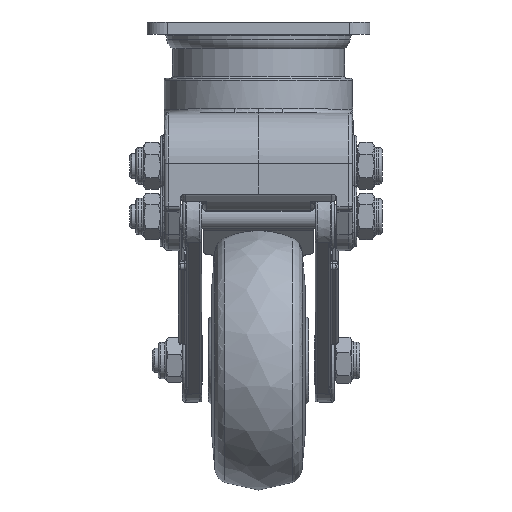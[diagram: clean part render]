
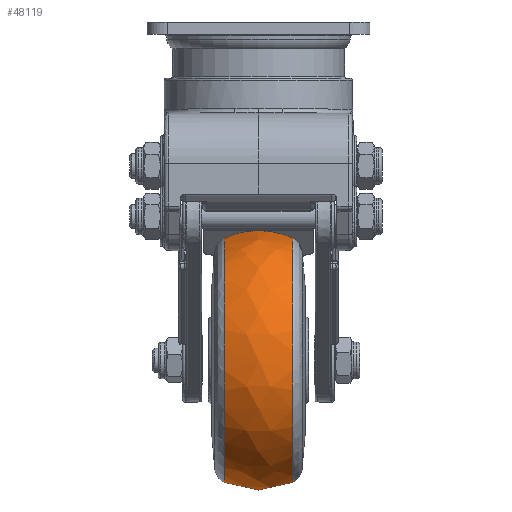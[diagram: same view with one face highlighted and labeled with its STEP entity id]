
A CAD part, left-side view. The second image highlights one B-rep face of the part: STEP entity #48119.
In plain terms, the highlighted free-form (B-spline) face has degree [2, 2] with [3, 9] control points.
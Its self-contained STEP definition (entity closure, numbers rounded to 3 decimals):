
#18=(
BOUNDED_SURFACE()
B_SPLINE_SURFACE(2,2,((#94049,#94050,#94051,#94052,#94053,#94054,#94055,
#94056,#94057),(#94058,#94059,#94060,#94061,#94062,#94063,#94064,#94065,
#94066),(#94067,#94068,#94069,#94070,#94071,#94072,#94073,#94074,#94075)),
 .UNSPECIFIED.,.F.,.T.,.F.)
B_SPLINE_SURFACE_WITH_KNOTS((3,3),(3,2,2,2,3),(-0.438,0.438),
(-3.142,-1.571,0.,1.571,3.142),
 .UNSPECIFIED.)
GEOMETRIC_REPRESENTATION_ITEM()
RATIONAL_B_SPLINE_SURFACE(((1.,0.707,1.,0.707,1.,
0.707,1.,0.707,1.),(0.906,0.64,
0.906,0.64,0.906,0.64,
0.906,0.64,0.906),(1.,0.707,
1.,0.707,1.,0.707,1.,0.707,1.)))
REPRESENTATION_ITEM('')
SURFACE()
);
#9468=FACE_OUTER_BOUND('',#12300,.T.);
#12300=EDGE_LOOP('',(#44853,#44854,#44855,#44856,#44857,#44858,#44859,#44860));
#20166=CIRCLE('',#51912,30.112);
#20167=CIRCLE('',#51913,30.112);
#20168=CIRCLE('',#51914,30.112);
#20179=CIRCLE('',#51931,30.112);
#20180=CIRCLE('',#51932,30.112);
#20181=CIRCLE('',#51933,30.112);
#20183=CIRCLE('',#51935,20.);
#24463=VERTEX_POINT('',#94006);
#24464=VERTEX_POINT('',#94008);
#24465=VERTEX_POINT('',#94010);
#24476=VERTEX_POINT('',#94042);
#24477=VERTEX_POINT('',#94043);
#24478=VERTEX_POINT('',#94045);
#31260=EDGE_CURVE('',#24463,#24464,#20166,.T.);
#31261=EDGE_CURVE('',#24464,#24465,#20167,.T.);
#31262=EDGE_CURVE('',#24465,#24463,#20168,.T.);
#31276=EDGE_CURVE('',#24476,#24477,#20179,.T.);
#31277=EDGE_CURVE('',#24478,#24476,#20180,.T.);
#31278=EDGE_CURVE('',#24477,#24478,#20181,.T.);
#31280=EDGE_CURVE('',#24478,#24464,#20183,.T.);
#44853=ORIENTED_EDGE('',*,*,#31276,.T.);
#44854=ORIENTED_EDGE('',*,*,#31278,.T.);
#44855=ORIENTED_EDGE('',*,*,#31280,.T.);
#44856=ORIENTED_EDGE('',*,*,#31260,.F.);
#44857=ORIENTED_EDGE('',*,*,#31262,.F.);
#44858=ORIENTED_EDGE('',*,*,#31261,.F.);
#44859=ORIENTED_EDGE('',*,*,#31280,.F.);
#44860=ORIENTED_EDGE('',*,*,#31277,.T.);
#48119=ADVANCED_FACE('',(#9468),#18,.F.);
#51912=AXIS2_PLACEMENT_3D('',#94009,#62673,#62674);
#51913=AXIS2_PLACEMENT_3D('',#94011,#62675,#62676);
#51914=AXIS2_PLACEMENT_3D('',#94012,#62677,#62678);
#51931=AXIS2_PLACEMENT_3D('',#94044,#62714,#62715);
#51932=AXIS2_PLACEMENT_3D('',#94046,#62716,#62717);
#51933=AXIS2_PLACEMENT_3D('',#94047,#62718,#62719);
#51935=AXIS2_PLACEMENT_3D('',#94076,#62722,#62723);
#62673=DIRECTION('center_axis',(0.,-1.,0.));
#62674=DIRECTION('ref_axis',(-0.325,0.,-0.946));
#62675=DIRECTION('center_axis',(0.,-1.,0.));
#62676=DIRECTION('ref_axis',(-0.325,0.,-0.946));
#62677=DIRECTION('center_axis',(0.,-1.,0.));
#62678=DIRECTION('ref_axis',(-0.325,0.,-0.946));
#62714=DIRECTION('center_axis',(0.,-1.,0.));
#62715=DIRECTION('ref_axis',(-0.325,0.,-0.946));
#62716=DIRECTION('center_axis',(0.,-1.,0.));
#62717=DIRECTION('ref_axis',(-0.325,0.,-0.946));
#62718=DIRECTION('center_axis',(0.,-1.,0.));
#62719=DIRECTION('ref_axis',(-0.325,0.,-0.946));
#62722=DIRECTION('center_axis',(1.,0.,0.));
#62723=DIRECTION('ref_axis',(0.,0.,
1.));
#94006=CARTESIAN_POINT('',(22.419,-11.304,-45.166));
#94008=CARTESIAN_POINT('',(12.637,-11.304,-43.533));
#94009=CARTESIAN_POINT('Origin',(12.637,-11.304,-73.645));
#94010=CARTESIAN_POINT('',(2.855,-11.304,-102.124));
#94011=CARTESIAN_POINT('Origin',(12.637,-11.304,-73.645));
#94012=CARTESIAN_POINT('Origin',(12.637,-11.304,-73.645));
#94042=CARTESIAN_POINT('',(2.855,5.66,-102.124));
#94043=CARTESIAN_POINT('',(22.419,5.66,-45.166));
#94044=CARTESIAN_POINT('Origin',(12.637,5.66,-73.645));
#94045=CARTESIAN_POINT('',(12.637,5.66,-43.533));
#94046=CARTESIAN_POINT('Origin',(12.637,5.66,-73.645));
#94047=CARTESIAN_POINT('Origin',(12.637,5.66,-73.645));
#94049=CARTESIAN_POINT('Ctrl Pts',(12.637,5.66,-43.533));
#94050=CARTESIAN_POINT('Ctrl Pts',(-17.475,5.66,-43.533));
#94051=CARTESIAN_POINT('Ctrl Pts',(-17.475,5.66,-73.645));
#94052=CARTESIAN_POINT('Ctrl Pts',(-17.475,5.66,-103.757));
#94053=CARTESIAN_POINT('Ctrl Pts',(12.637,5.66,-103.757));
#94054=CARTESIAN_POINT('Ctrl Pts',(42.749,5.66,-103.757));
#94055=CARTESIAN_POINT('Ctrl Pts',(42.749,5.66,-73.645));
#94056=CARTESIAN_POINT('Ctrl Pts',(42.749,5.66,-43.533));
#94057=CARTESIAN_POINT('Ctrl Pts',(12.637,5.66,-43.533));
#94058=CARTESIAN_POINT('Ctrl Pts',(12.637,-2.822,-39.561));
#94059=CARTESIAN_POINT('Ctrl Pts',(-21.447,-2.822,
-39.561));
#94060=CARTESIAN_POINT('Ctrl Pts',(-21.447,-2.822,
-73.645));
#94061=CARTESIAN_POINT('Ctrl Pts',(-21.447,-2.822,
-107.73));
#94062=CARTESIAN_POINT('Ctrl Pts',(12.637,-2.822,-107.73));
#94063=CARTESIAN_POINT('Ctrl Pts',(46.722,-2.822,-107.73));
#94064=CARTESIAN_POINT('Ctrl Pts',(46.722,-2.822,-73.645));
#94065=CARTESIAN_POINT('Ctrl Pts',(46.722,-2.822,-39.561));
#94066=CARTESIAN_POINT('Ctrl Pts',(12.637,-2.822,-39.561));
#94067=CARTESIAN_POINT('Ctrl Pts',(12.637,-11.304,-43.533));
#94068=CARTESIAN_POINT('Ctrl Pts',(-17.475,-11.304,
-43.533));
#94069=CARTESIAN_POINT('Ctrl Pts',(-17.475,-11.304,
-73.645));
#94070=CARTESIAN_POINT('Ctrl Pts',(-17.475,-11.304,
-103.757));
#94071=CARTESIAN_POINT('Ctrl Pts',(12.637,-11.304,-103.757));
#94072=CARTESIAN_POINT('Ctrl Pts',(42.749,-11.304,-103.757));
#94073=CARTESIAN_POINT('Ctrl Pts',(42.749,-11.304,-73.645));
#94074=CARTESIAN_POINT('Ctrl Pts',(42.749,-11.304,-43.533));
#94075=CARTESIAN_POINT('Ctrl Pts',(12.637,-11.304,-43.533));
#94076=CARTESIAN_POINT('Origin',(12.637,-2.822,-61.645));
